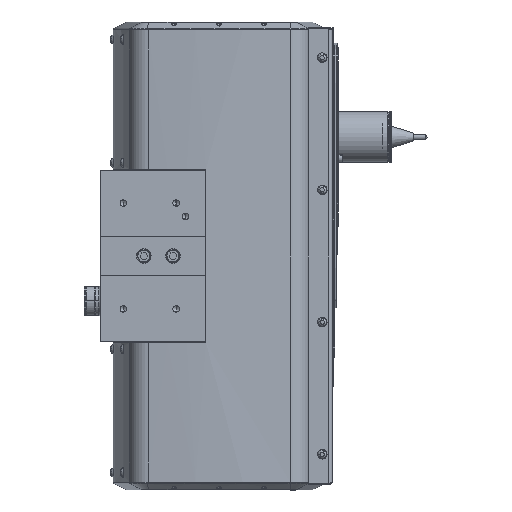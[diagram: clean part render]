
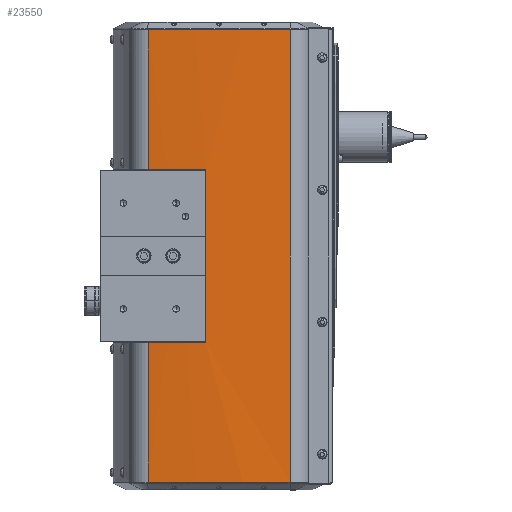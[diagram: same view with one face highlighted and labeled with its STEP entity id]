
A CAD part, left-side view. The second image highlights one B-rep face of the part: STEP entity #23550.
In plain terms, the highlighted cylindrical face has radius 600 mm (diameter 1200 mm), a partial arc.
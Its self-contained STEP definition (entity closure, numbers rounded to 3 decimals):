
#23369 = VERTEX_POINT ( 'NONE', #82349 ) ;
#23374 = VERTEX_POINT ( 'NONE', #82412 ) ;
#23376 = EDGE_CURVE ( 'NONE', #23369, #23374, #82411, .T. ) ;
#23388 = VERTEX_POINT ( 'NONE', #82396 ) ;
#23404 = EDGE_LOOP ( 'NONE', ( #23406, #23410, #23412, #23889, #23722, #23725, #23727, #23732 ) ) ;
#23406 = ORIENTED_EDGE ( 'NONE', *, *, #23408, .F. ) ;
#23408 = EDGE_CURVE ( 'NONE', #23369, #23409, #82425, .T. ) ;
#23409 = VERTEX_POINT ( 'NONE', #82421 ) ;
#23410 = ORIENTED_EDGE ( 'NONE', *, *, #23376, .T. ) ;
#23412 = ORIENTED_EDGE ( 'NONE', *, *, #23887, .T. ) ;
#23543 = EDGE_CURVE ( 'NONE', #23544, #23388, #82595, .T. ) ;
#23544 = VERTEX_POINT ( 'NONE', #82591 ) ;
#23550 = ADVANCED_FACE ( 'NONE', ( #82647 ), #82646, .T. ) ;
#23721 = VERTEX_POINT ( 'NONE', #82787 ) ;
#23722 = ORIENTED_EDGE ( 'NONE', *, *, #23723, .F. ) ;
#23723 = EDGE_CURVE ( 'NONE', #23544, #23721, #82786, .T. ) ;
#23725 = ORIENTED_EDGE ( 'NONE', *, *, #23543, .T. ) ;
#23727 = ORIENTED_EDGE ( 'NONE', *, *, #23730, .F. ) ;
#23730 = EDGE_CURVE ( 'NONE', #23731, #23388, #82781, .T. ) ;
#23731 = VERTEX_POINT ( 'NONE', #82776 ) ;
#23732 = ORIENTED_EDGE ( 'NONE', *, *, #23734, .F. ) ;
#23734 = EDGE_CURVE ( 'NONE', #23409, #23731, #82839, .T. ) ;
#23887 = EDGE_CURVE ( 'NONE', #23374, #23888, #83031, .T. ) ;
#23888 = VERTEX_POINT ( 'NONE', #83026 ) ;
#23889 = ORIENTED_EDGE ( 'NONE', *, *, #23891, .F. ) ;
#23891 = EDGE_CURVE ( 'NONE', #23721, #23888, #83025, .T. ) ;
#82349 = CARTESIAN_POINT ( 'NONE',  ( -19.831, -36.34, -65.5 ) ) ;
#82396 = CARTESIAN_POINT ( 'NONE',  ( -19.831, -36.34, 65.5 ) ) ;
#82408 = DIRECTION ( 'NONE',  ( 0., 0., -1. ) ) ;
#82409 = VECTOR ( 'NONE', #82408, 1000. ) ;
#82410 = CARTESIAN_POINT ( 'NONE',  ( -19.831, -36.34, 171. ) ) ;
#82411 = LINE ( 'NONE', #82410, #82409 ) ;
#82412 = CARTESIAN_POINT ( 'NONE',  ( -19.831, -36.34, -171. ) ) ;
#82421 = CARTESIAN_POINT ( 'NONE',  ( -22.152, -80., -65.5 ) ) ;
#82422 = DIRECTION ( 'NONE',  ( -1., 0., 0. ) ) ;
#82423 = DIRECTION ( 'NONE',  ( 0., 0., 1. ) ) ;
#82424 = AXIS2_PLACEMENT_3D ( 'NONE', #82446, #82423, #82422 ) ;
#82425 = CIRCLE ( 'NONE', #82424, 600. ) ;
#82446 = CARTESIAN_POINT ( 'NONE',  ( 577.764, -90., -65.5 ) ) ;
#82591 = CARTESIAN_POINT ( 'NONE',  ( -19.831, -36.34, 171. ) ) ;
#82592 = DIRECTION ( 'NONE',  ( 0., 0., -1. ) ) ;
#82593 = VECTOR ( 'NONE', #82592, 1000. ) ;
#82594 = CARTESIAN_POINT ( 'NONE',  ( -19.831, -36.34, 171. ) ) ;
#82595 = LINE ( 'NONE', #82594, #82593 ) ;
#82641 = DIRECTION ( 'NONE',  ( 0., 1., 0. ) ) ;
#82642 = DIRECTION ( 'NONE',  ( 0., 0., -1. ) ) ;
#82643 = CARTESIAN_POINT ( 'NONE',  ( 577.764, -90., 171. ) ) ;
#82644 = AXIS2_PLACEMENT_3D ( 'NONE', #82643, #82642, #82641 ) ;
#82646 = CYLINDRICAL_SURFACE ( 'NONE', #82644, 600. ) ;
#82647 = FACE_OUTER_BOUND ( 'NONE', #23404, .T. ) ;
#82776 = CARTESIAN_POINT ( 'NONE',  ( -22.152, -80., 65.5 ) ) ;
#82777 = DIRECTION ( 'NONE',  ( 1., 0., 0. ) ) ;
#82778 = DIRECTION ( 'NONE',  ( 0., 0., -1. ) ) ;
#82779 = CARTESIAN_POINT ( 'NONE',  ( 577.764, -90., 65.5 ) ) ;
#82780 = AXIS2_PLACEMENT_3D ( 'NONE', #82779, #82778, #82777 ) ;
#82781 = CIRCLE ( 'NONE', #82780, 600. ) ;
#82782 = DIRECTION ( 'NONE',  ( 0., -1., 0. ) ) ;
#82783 = DIRECTION ( 'NONE',  ( 0., 0., 1. ) ) ;
#82784 = CARTESIAN_POINT ( 'NONE',  ( 577.764, -90., 171. ) ) ;
#82785 = AXIS2_PLACEMENT_3D ( 'NONE', #82784, #82783, #82782 ) ;
#82786 = CIRCLE ( 'NONE', #82785, 600. ) ;
#82787 = CARTESIAN_POINT ( 'NONE',  ( -19.831, -143.66, 171. ) ) ;
#82836 = DIRECTION ( 'NONE',  ( 0., 0., 1. ) ) ;
#82837 = VECTOR ( 'NONE', #82836, 1000. ) ;
#82838 = CARTESIAN_POINT ( 'NONE',  ( -22.152, -80., 171. ) ) ;
#82839 = LINE ( 'NONE', #82838, #82837 ) ;
#83022 = DIRECTION ( 'NONE',  ( 0., 0., -1. ) ) ;
#83023 = VECTOR ( 'NONE', #83022, 1000. ) ;
#83024 = CARTESIAN_POINT ( 'NONE',  ( -19.831, -143.66, 171. ) ) ;
#83025 = LINE ( 'NONE', #83024, #83023 ) ;
#83026 = CARTESIAN_POINT ( 'NONE',  ( -19.831, -143.66, -171. ) ) ;
#83027 = DIRECTION ( 'NONE',  ( 0., -1., 0. ) ) ;
#83028 = DIRECTION ( 'NONE',  ( 0., 0., 1. ) ) ;
#83029 = CARTESIAN_POINT ( 'NONE',  ( 577.764, -90., -171. ) ) ;
#83030 = AXIS2_PLACEMENT_3D ( 'NONE', #83029, #83028, #83027 ) ;
#83031 = CIRCLE ( 'NONE', #83030, 600. ) ;
